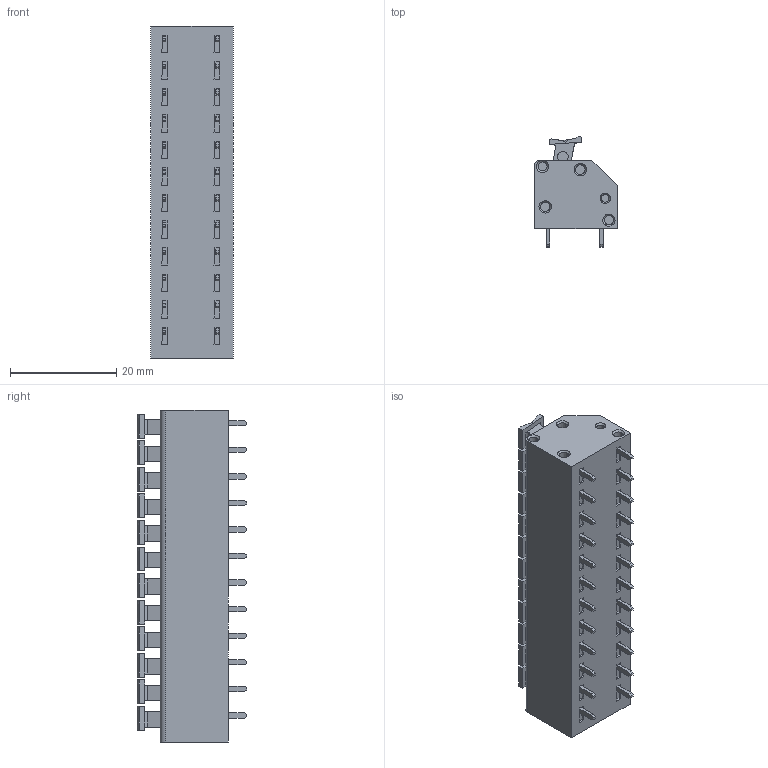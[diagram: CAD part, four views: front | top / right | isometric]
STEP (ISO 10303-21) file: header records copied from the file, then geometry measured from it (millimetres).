
FILE_DESCRIPTION (( 'STEP AP214' ), '1' );
FILE_NAME ('874-DR-12.STEP', '2007-11-28T02:12:35', ( ' ' ), ( '' ), 'SwSTEP 2.0', 'SolidWorks 2007', '' );
FILE_SCHEMA (( 'AUTOMOTIVE_DESIGN' ));
Length unit declared in the file: millimetre
Products named in the file (1): 874-DR-12
Bounding box: 15.6 x 20.69 x 62.5 mm (x, y, z)
Volume: 11542.3 mm3; surface area: 6449.8 mm2
Topology: 1 solids, 1 shells, 992 faces, 2627 edges, 1709 vertices
Faces by surface type: plane 748, cylinder 138, bspline 72, cone 34
Entity records: 37321 total; most frequent: CARTESIAN_POINT 13496, ORIENTED_EDGE 5182, DIRECTION 4395, EDGE_CURVE 2591, VECTOR 1945, LINE 1945, VERTEX_POINT 1709, AXIS2_PLACEMENT_3D 1225
